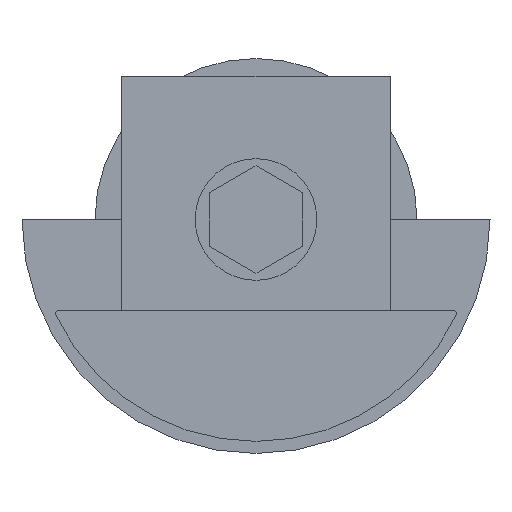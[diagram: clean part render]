
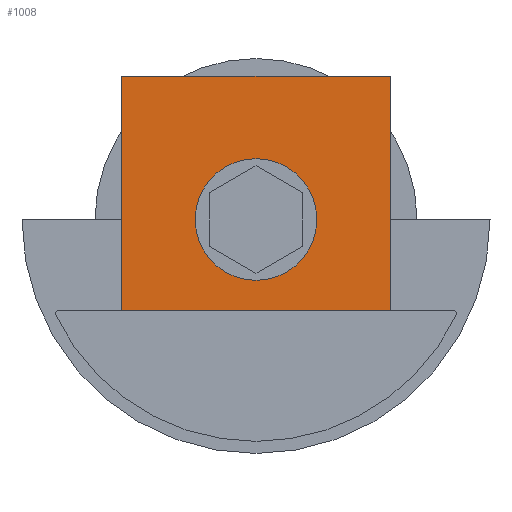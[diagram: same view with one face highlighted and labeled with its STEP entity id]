
A CAD part, left-side view. The second image highlights one B-rep face of the part: STEP entity #1008.
In plain terms, the highlighted planar face has unit normal (-1, 0, 0).
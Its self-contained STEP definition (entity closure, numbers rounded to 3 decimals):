
#2 = DIRECTION ( 'NONE',  ( 0., 0., -1. ) ) ;
#36 = AXIS2_PLACEMENT_3D ( 'NONE', #1100, #746, #1842 ) ;
#83 = LINE ( 'NONE', #501, #453 ) ;
#111 = VERTEX_POINT ( 'NONE', #445 ) ;
#163 = VERTEX_POINT ( 'NONE', #898 ) ;
#183 = EDGE_CURVE ( 'NONE', #111, #163, #294, .T. ) ;
#213 = EDGE_CURVE ( 'NONE', #1075, #1500, #278, .T. ) ;
#226 = DIRECTION ( 'NONE',  ( 0., 0., -1. ) ) ;
#278 = LINE ( 'NONE', #890, #1757 ) ;
#294 = CIRCLE ( 'NONE', #1885, 4. ) ;
#416 = CARTESIAN_POINT ( 'NONE',  ( -193.5, -13.95, 20. ) ) ;
#445 = CARTESIAN_POINT ( 'NONE',  ( -193.5, -32.7, 28.7 ) ) ;
#453 = VECTOR ( 'NONE', #694, 1000. ) ;
#501 = CARTESIAN_POINT ( 'NONE',  ( -193.5, -60.696, 52.7 ) ) ;
#521 = PLANE ( 'NONE',  #1283 ) ;
#661 = DIRECTION ( 'NONE',  ( 0., -1., 0. ) ) ;
#694 = DIRECTION ( 'NONE',  ( 0., 1., 0. ) ) ;
#713 = VECTOR ( 'NONE', #1230, 1000. ) ;
#746 = DIRECTION ( 'NONE',  ( -1., 0., 0. ) ) ;
#747 = VECTOR ( 'NONE', #226, 1000. ) ;
#761 = LINE ( 'NONE', #1973, #713 ) ;
#770 = ORIENTED_EDGE ( 'NONE', *, *, #1231, .F. ) ;
#793 = CARTESIAN_POINT ( 'NONE',  ( -193.5, -60.696, 52.7 ) ) ;
#814 = FACE_BOUND ( 'NONE', #1164, .T. ) ;
#865 = ORIENTED_EDGE ( 'NONE', *, *, #1422, .T. ) ;
#882 = CARTESIAN_POINT ( 'NONE',  ( -193.5, -13.95, 52.7 ) ) ;
#890 = CARTESIAN_POINT ( 'NONE',  ( -193.5, -60.696, 20. ) ) ;
#898 = CARTESIAN_POINT ( 'NONE',  ( -193.5, -32.7, 36.7 ) ) ;
#925 = CARTESIAN_POINT ( 'NONE',  ( -193.5, -32.7, 32.7 ) ) ;
#994 = CARTESIAN_POINT ( 'NONE',  ( -193.5, -51.45, 52.7 ) ) ;
#1008 = ADVANCED_FACE ( 'NONE', ( #814, #1424 ), #521, .F. ) ;
#1075 = VERTEX_POINT ( 'NONE', #1495 ) ;
#1100 = CARTESIAN_POINT ( 'NONE',  ( -193.5, -32.7, 32.7 ) ) ;
#1136 = DIRECTION ( 'NONE',  ( 1., 0., 0. ) ) ;
#1164 = EDGE_LOOP ( 'NONE', ( #1803, #770 ) ) ;
#1169 = EDGE_LOOP ( 'NONE', ( #865, #1776, #1738, #1434 ) ) ;
#1230 = DIRECTION ( 'NONE',  ( 0., 0., 1. ) ) ;
#1231 = EDGE_CURVE ( 'NONE', #163, #111, #1670, .T. ) ;
#1283 = AXIS2_PLACEMENT_3D ( 'NONE', #793, #1136, #661 ) ;
#1348 = DIRECTION ( 'NONE',  ( 0., 1., 0. ) ) ;
#1422 = EDGE_CURVE ( 'NONE', #1705, #1921, #83, .T. ) ;
#1424 = FACE_OUTER_BOUND ( 'NONE', #1169, .T. ) ;
#1434 = ORIENTED_EDGE ( 'NONE', *, *, #1832, .F. ) ;
#1495 = CARTESIAN_POINT ( 'NONE',  ( -193.5, -51.45, 20. ) ) ;
#1500 = VERTEX_POINT ( 'NONE', #416 ) ;
#1593 = LINE ( 'NONE', #994, #747 ) ;
#1648 = DIRECTION ( 'NONE',  ( -1., 0., 0. ) ) ;
#1670 = CIRCLE ( 'NONE', #36, 4. ) ;
#1674 = EDGE_CURVE ( 'NONE', #1500, #1921, #761, .T. ) ;
#1702 = CARTESIAN_POINT ( 'NONE',  ( -193.5, -51.45, 52.7 ) ) ;
#1705 = VERTEX_POINT ( 'NONE', #1702 ) ;
#1738 = ORIENTED_EDGE ( 'NONE', *, *, #213, .F. ) ;
#1757 = VECTOR ( 'NONE', #1348, 1000. ) ;
#1776 = ORIENTED_EDGE ( 'NONE', *, *, #1674, .F. ) ;
#1803 = ORIENTED_EDGE ( 'NONE', *, *, #183, .F. ) ;
#1832 = EDGE_CURVE ( 'NONE', #1705, #1075, #1593, .T. ) ;
#1842 = DIRECTION ( 'NONE',  ( 0., 0., -1. ) ) ;
#1885 = AXIS2_PLACEMENT_3D ( 'NONE', #925, #1648, #2 ) ;
#1921 = VERTEX_POINT ( 'NONE', #882 ) ;
#1973 = CARTESIAN_POINT ( 'NONE',  ( -193.5, -13.95, 20. ) ) ;
